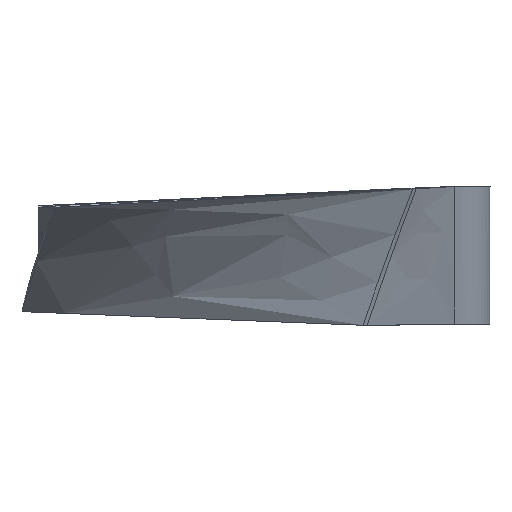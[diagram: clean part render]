
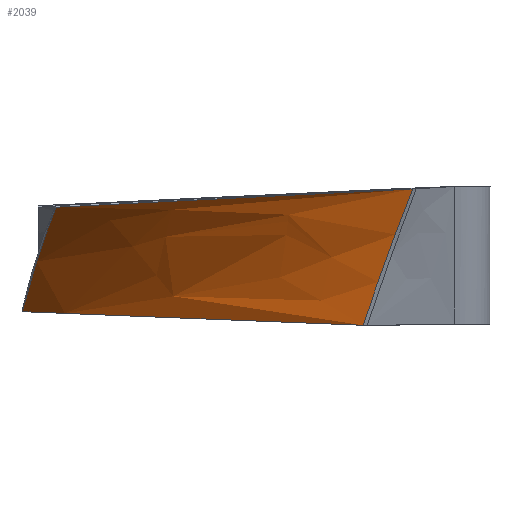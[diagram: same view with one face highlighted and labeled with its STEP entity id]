
A CAD part, left-side view. The second image highlights one B-rep face of the part: STEP entity #2039.
In plain terms, the highlighted free-form (B-spline) face has degree [3, 3] with [4, 4] control points.
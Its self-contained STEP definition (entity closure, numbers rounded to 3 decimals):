
#1776=CARTESIAN_POINT('Vertex',(-18.316,96.997,11.615)) ;
#1780=CARTESIAN_POINT('Control Point',(-18.316,96.997,11.615)) ;
#1781=CARTESIAN_POINT('Control Point',(-14.538,100.245,3.41)) ;
#1782=CARTESIAN_POINT('Control Point',(-11.246,103.393,-5.056)) ;
#1783=CARTESIAN_POINT('Control Point',(-8.412,106.434,-13.709)) ;
#1784=CARTESIAN_POINT('Vertex',(-8.414,106.433,-13.71)) ;
#1788=CARTESIAN_POINT('Control Point',(-8.412,106.434,-13.709)) ;
#1789=CARTESIAN_POINT('Control Point',(-7.132,107.806,-17.614)) ;
#1790=CARTESIAN_POINT('Control Point',(-5.946,109.156,-21.558)) ;
#1791=CARTESIAN_POINT('Control Point',(-4.85,110.483,-25.533)) ;
#1792=CARTESIAN_POINT('Vertex',(-4.85,110.483,-25.533)) ;
#1967=CARTESIAN_POINT('Control Point',(-3.957,203.413,-21.819)) ;
#1968=CARTESIAN_POINT('Control Point',(-4.291,168.655,-23.208)) ;
#1969=CARTESIAN_POINT('Control Point',(-4.625,133.898,-24.597)) ;
#1970=CARTESIAN_POINT('Control Point',(-4.959,99.141,-25.986)) ;
#1971=CARTESIAN_POINT('Control Point',(-15.415,200.589,-10.968)) ;
#1972=CARTESIAN_POINT('Control Point',(-12.766,166.567,-11.597)) ;
#1973=CARTESIAN_POINT('Control Point',(-10.117,132.545,-12.226)) ;
#1974=CARTESIAN_POINT('Control Point',(-7.468,98.523,-12.855)) ;
#1975=CARTESIAN_POINT('Control Point',(-28.017,197.482,-1.399)) ;
#1976=CARTESIAN_POINT('Control Point',(-22.644,164.132,-0.971)) ;
#1977=CARTESIAN_POINT('Control Point',(-17.272,130.781,-0.543)) ;
#1978=CARTESIAN_POINT('Control Point',(-11.899,97.43,-0.115)) ;
#1979=CARTESIAN_POINT('Control Point',(-41.469,194.167,6.665)) ;
#1980=CARTESIAN_POINT('Control Point',(-33.665,161.415,8.334)) ;
#1981=CARTESIAN_POINT('Control Point',(-25.861,128.664,10.002)) ;
#1982=CARTESIAN_POINT('Control Point',(-18.057,95.912,11.67)) ;
#1984=CARTESIAN_POINT('Control Point',(-18.495,97.748,11.577)) ;
#1985=CARTESIAN_POINT('Control Point',(-18.435,97.498,11.589)) ;
#1986=CARTESIAN_POINT('Control Point',(-18.375,97.247,11.602)) ;
#1987=CARTESIAN_POINT('Control Point',(-18.316,96.997,11.615)) ;
#1988=CARTESIAN_POINT('Vertex',(-18.495,97.748,11.577)) ;
#1992=CARTESIAN_POINT('Control Point',(-41.469,194.167,6.665)) ;
#1993=CARTESIAN_POINT('Control Point',(-33.811,162.027,8.302)) ;
#1994=CARTESIAN_POINT('Control Point',(-26.153,129.887,9.939)) ;
#1995=CARTESIAN_POINT('Control Point',(-18.495,97.748,11.577)) ;
#1996=CARTESIAN_POINT('Vertex',(-41.469,194.167,6.665)) ;
#2000=CARTESIAN_POINT('Control Point',(-3.957,203.413,-21.819)) ;
#2001=CARTESIAN_POINT('Control Point',(-15.415,200.589,-10.968)) ;
#2002=CARTESIAN_POINT('Control Point',(-28.017,197.482,-1.399)) ;
#2003=CARTESIAN_POINT('Control Point',(-41.469,194.167,6.665)) ;
#2004=CARTESIAN_POINT('Vertex',(-3.957,203.413,-21.819)) ;
#2008=CARTESIAN_POINT('Control Point',(-3.957,203.413,-21.819)) ;
#2009=CARTESIAN_POINT('Control Point',(-3.963,202.79,-21.844)) ;
#2010=CARTESIAN_POINT('Control Point',(-3.969,202.167,-21.869)) ;
#2011=CARTESIAN_POINT('Control Point',(-3.975,201.544,-21.894)) ;
#2012=CARTESIAN_POINT('Vertex',(-3.975,201.544,-21.894)) ;
#2016=CARTESIAN_POINT('Control Point',(-3.975,201.544,-21.894)) ;
#2017=CARTESIAN_POINT('Control Point',(-4.006,198.295,-22.023)) ;
#2018=CARTESIAN_POINT('Control Point',(-4.038,195.045,-22.153)) ;
#2019=CARTESIAN_POINT('Control Point',(-4.069,191.796,-22.283)) ;
#2020=CARTESIAN_POINT('Vertex',(-4.069,191.796,-22.283)) ;
#2024=CARTESIAN_POINT('Control Point',(-4.069,191.796,-22.283)) ;
#2025=CARTESIAN_POINT('Control Point',(-4.329,164.692,-23.366)) ;
#2026=CARTESIAN_POINT('Control Point',(-4.589,137.588,-24.45)) ;
#2027=CARTESIAN_POINT('Control Point',(-4.85,110.483,-25.533)) ;
#2030=ORIENTED_EDGE('',*,*,#1786,.F.) ;
#2031=ORIENTED_EDGE('',*,*,#1990,.T.) ;
#2032=ORIENTED_EDGE('',*,*,#1998,.T.) ;
#2033=ORIENTED_EDGE('',*,*,#2006,.F.) ;
#2034=ORIENTED_EDGE('',*,*,#2014,.F.) ;
#2035=ORIENTED_EDGE('',*,*,#2022,.F.) ;
#2036=ORIENTED_EDGE('',*,*,#2028,.F.) ;
#2037=ORIENTED_EDGE('',*,*,#1794,.F.) ;
#2039=ADVANCED_FACE('MANIFOLD_SOLID_BREP #124',(#2038),#1966,.F.) ;
#1779=B_SPLINE_CURVE_WITH_KNOTS('',3,(#1780,#1781,#1782,#1783),.UNSPECIFIED.,.F.,.U.,(4,4),(0.,28.823),.UNSPECIFIED.) ;
#1787=B_SPLINE_CURVE_WITH_KNOTS('',3,(#1788,#1789,#1790,#1791),.UNSPECIFIED.,.F.,.U.,(4,4),(28.823,41.83),.UNSPECIFIED.) ;
#1983=B_SPLINE_CURVE_WITH_KNOTS('',3,(#1984,#1985,#1986,#1987),.UNSPECIFIED.,.F.,.U.,(4,4),(100.397,101.178),.UNSPECIFIED.) ;
#1991=B_SPLINE_CURVE_WITH_KNOTS('',3,(#1992,#1993,#1994,#1995),.UNSPECIFIED.,.F.,.U.,(4,4),(0.,100.397),.UNSPECIFIED.) ;
#1999=B_SPLINE_CURVE_WITH_KNOTS('',3,(#2000,#2001,#2002,#2003),.UNSPECIFIED.,.F.,.U.,(4,4),(0.,43.395),.UNSPECIFIED.) ;
#2007=B_SPLINE_CURVE_WITH_KNOTS('',3,(#2008,#2009,#2010,#2011),.UNSPECIFIED.,.F.,.U.,(4,4),(0.,1.834),.UNSPECIFIED.) ;
#2015=B_SPLINE_CURVE_WITH_KNOTS('',3,(#2016,#2017,#2018,#2019),.UNSPECIFIED.,.F.,.U.,(4,4),(1.834,11.397),.UNSPECIFIED.) ;
#2023=B_SPLINE_CURVE_WITH_KNOTS('',3,(#2024,#2025,#2026,#2027),.UNSPECIFIED.,.F.,.U.,(4,4),(11.397,91.179),.UNSPECIFIED.) ;
#1966=B_SPLINE_SURFACE_WITH_KNOTS('',3,3,((#1967,#1968,#1969,#1970),(#1971,#1972,#1973,#1974),(#1975,#1976,#1977,#1978),(#1979,#1980,#1981,#1982)),.UNSPECIFIED.,.F.,.F.,.U.,(4,4),(4,4),(0.,43.395),(0.,102.308),.UNSPECIFIED.) ;
#1786=EDGE_CURVE('',#1777,#1785,#1779,.T.) ;
#1794=EDGE_CURVE('',#1785,#1793,#1787,.T.) ;
#1990=EDGE_CURVE('',#1777,#1989,#1983,.F.) ;
#1998=EDGE_CURVE('',#1989,#1997,#1991,.F.) ;
#2006=EDGE_CURVE('',#2005,#1997,#1999,.T.) ;
#2014=EDGE_CURVE('',#2013,#2005,#2007,.F.) ;
#2022=EDGE_CURVE('',#2021,#2013,#2015,.F.) ;
#2028=EDGE_CURVE('',#1793,#2021,#2023,.F.) ;
#2029=EDGE_LOOP('',(#2030,#2031,#2032,#2033,#2034,#2035,#2036,#2037)) ;
#2038=FACE_OUTER_BOUND('',#2029,.T.) ;
#1777=VERTEX_POINT('',#1776) ;
#1785=VERTEX_POINT('',#1784) ;
#1793=VERTEX_POINT('',#1792) ;
#1989=VERTEX_POINT('',#1988) ;
#1997=VERTEX_POINT('',#1996) ;
#2005=VERTEX_POINT('',#2004) ;
#2013=VERTEX_POINT('',#2012) ;
#2021=VERTEX_POINT('',#2020) ;
